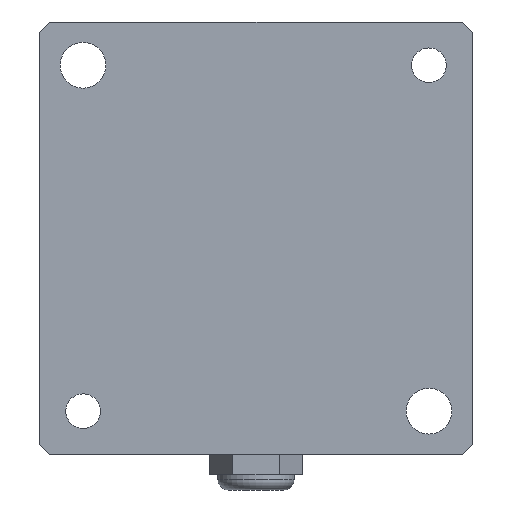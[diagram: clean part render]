
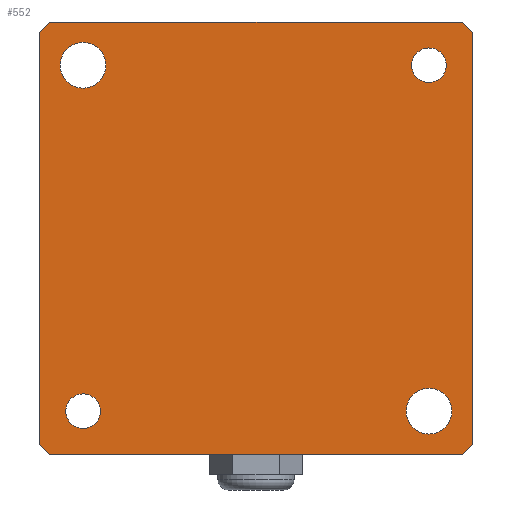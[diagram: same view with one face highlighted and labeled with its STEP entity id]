
A CAD part, front view. The second image highlights one B-rep face of the part: STEP entity #552.
In plain terms, the highlighted planar face has unit normal (0, -1, 0).
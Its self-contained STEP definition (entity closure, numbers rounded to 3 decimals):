
#11 = ORIENTED_EDGE ( 'NONE', *, *, #1189, .T. ) ;
#14 = VERTEX_POINT ( 'NONE', #559 ) ;
#21 = EDGE_CURVE ( 'NONE', #922, #55, #548, .T. ) ;
#38 = EDGE_CURVE ( 'NONE', #57, #204, #1308, .T. ) ;
#41 = DIRECTION ( 'NONE',  ( 0., 0., 1. ) ) ;
#55 = VERTEX_POINT ( 'NONE', #1165 ) ;
#57 = VERTEX_POINT ( 'NONE', #212 ) ;
#83 = CIRCLE ( 'NONE', #1417, 4.5 ) ;
#110 = CARTESIAN_POINT ( 'NONE',  ( -42.5, 0., -40.5 ) ) ;
#117 = ORIENTED_EDGE ( 'NONE', *, *, #898, .T. ) ;
#155 = CARTESIAN_POINT ( 'NONE',  ( -34., 0., 34. ) ) ;
#160 = CARTESIAN_POINT ( 'NONE',  ( -34., 0., 34. ) ) ;
#162 = CARTESIAN_POINT ( 'NONE',  ( -34., 0., -30.6 ) ) ;
#177 = VERTEX_POINT ( 'NONE', #265 ) ;
#197 = CARTESIAN_POINT ( 'NONE',  ( -42.5, 0., -40.5 ) ) ;
#204 = VERTEX_POINT ( 'NONE', #1191 ) ;
#212 = CARTESIAN_POINT ( 'NONE',  ( 42.5, 0., 40.5 ) ) ;
#234 = CARTESIAN_POINT ( 'NONE',  ( 42.5, 0., -42.5 ) ) ;
#240 = CARTESIAN_POINT ( 'NONE',  ( -42.5, 0., -42.5 ) ) ;
#265 = CARTESIAN_POINT ( 'NONE',  ( 34., 0., -29.5 ) ) ;
#280 = LINE ( 'NONE', #1714, #527 ) ;
#281 = CARTESIAN_POINT ( 'NONE',  ( -34., 0., -34. ) ) ;
#293 = DIRECTION ( 'NONE',  ( 0., 1., 0. ) ) ;
#305 = DIRECTION ( 'NONE',  ( 0., 0., 1. ) ) ;
#312 = DIRECTION ( 'NONE',  ( 0.707, 0., 0.707 ) ) ;
#318 = DIRECTION ( 'NONE',  ( 0., 0., 1. ) ) ;
#324 = AXIS2_PLACEMENT_3D ( 'NONE', #1456, #511, #1574 ) ;
#340 = FACE_BOUND ( 'NONE', #888, .T. ) ;
#349 = CARTESIAN_POINT ( 'NONE',  ( 0., 0., 0. ) ) ;
#375 = CIRCLE ( 'NONE', #676, 3.4 ) ;
#457 = EDGE_CURVE ( 'NONE', #791, #531, #544, .T. ) ;
#466 = VERTEX_POINT ( 'NONE', #843 ) ;
#471 = DIRECTION ( 'NONE',  ( 0., 1., 0. ) ) ;
#478 = PLANE ( 'NONE',  #1662 ) ;
#489 = EDGE_CURVE ( 'NONE', #177, #1317, #1323, .T. ) ;
#492 = CARTESIAN_POINT ( 'NONE',  ( -42.5, 0., 42.5 ) ) ;
#511 = DIRECTION ( 'NONE',  ( 0., 1., 0. ) ) ;
#523 = EDGE_CURVE ( 'NONE', #1188, #1555, #668, .T. ) ;
#526 = FACE_OUTER_BOUND ( 'NONE', #1062, .T. ) ;
#527 = VECTOR ( 'NONE', #627, 1000. ) ;
#531 = VERTEX_POINT ( 'NONE', #853 ) ;
#540 = ORIENTED_EDGE ( 'NONE', *, *, #1320, .T. ) ;
#544 = LINE ( 'NONE', #1507, #795 ) ;
#546 = ORIENTED_EDGE ( 'NONE', *, *, #21, .F. ) ;
#548 = LINE ( 'NONE', #492, #736 ) ;
#550 = CIRCLE ( 'NONE', #1704, 4.5 ) ;
#552 = ADVANCED_FACE ( 'NONE', ( #1276, #1101, #929, #340, #526 ), #478, .F. ) ;
#559 = CARTESIAN_POINT ( 'NONE',  ( -34., 0., -37.4 ) ) ;
#563 = LINE ( 'NONE', #240, #1547 ) ;
#566 = CARTESIAN_POINT ( 'NONE',  ( -40.5, 0., 42.5 ) ) ;
#570 = AXIS2_PLACEMENT_3D ( 'NONE', #1324, #790, #1192 ) ;
#571 = LINE ( 'NONE', #110, #803 ) ;
#574 = VERTEX_POINT ( 'NONE', #197 ) ;
#586 = CARTESIAN_POINT ( 'NONE',  ( -42.5, 0., 40.5 ) ) ;
#592 = DIRECTION ( 'NONE',  ( 0., 1., 0. ) ) ;
#602 = DIRECTION ( 'NONE',  ( 1., 0., 0. ) ) ;
#626 = VECTOR ( 'NONE', #312, 1000. ) ;
#627 = DIRECTION ( 'NONE',  ( -0.707, 0., 0.707 ) ) ;
#649 = EDGE_CURVE ( 'NONE', #574, #1076, #563, .T. ) ;
#655 = CIRCLE ( 'NONE', #1404, 3.4 ) ;
#668 = CIRCLE ( 'NONE', #1310, 3.4 ) ;
#676 = AXIS2_PLACEMENT_3D ( 'NONE', #1274, #1449, #1443 ) ;
#724 = EDGE_CURVE ( 'NONE', #14, #986, #1451, .T. ) ;
#736 = VECTOR ( 'NONE', #602, 1000. ) ;
#752 = CARTESIAN_POINT ( 'NONE',  ( -40.5, 0., 42.5 ) ) ;
#759 = ORIENTED_EDGE ( 'NONE', *, *, #38, .F. ) ;
#784 = ORIENTED_EDGE ( 'NONE', *, *, #1596, .T. ) ;
#790 = DIRECTION ( 'NONE',  ( 0., 1., 0. ) ) ;
#791 = VERTEX_POINT ( 'NONE', #862 ) ;
#795 = VECTOR ( 'NONE', #827, 1000. ) ;
#800 = ORIENTED_EDGE ( 'NONE', *, *, #457, .F. ) ;
#803 = VECTOR ( 'NONE', #1592, 1000. ) ;
#805 = LINE ( 'NONE', #752, #1072 ) ;
#819 = EDGE_CURVE ( 'NONE', #1317, #177, #1235, .T. ) ;
#827 = DIRECTION ( 'NONE',  ( -1., 0., 0. ) ) ;
#836 = EDGE_CURVE ( 'NONE', #57, #55, #280, .T. ) ;
#843 = CARTESIAN_POINT ( 'NONE',  ( -34., 0., 38.5 ) ) ;
#853 = CARTESIAN_POINT ( 'NONE',  ( -40.5, 0., -42.5 ) ) ;
#862 = CARTESIAN_POINT ( 'NONE',  ( 40.5, 0., -42.5 ) ) ;
#888 = EDGE_LOOP ( 'NONE', ( #1551, #1031 ) ) ;
#891 = DIRECTION ( 'NONE',  ( -0.707, 0., -0.707 ) ) ;
#897 = VECTOR ( 'NONE', #1679, 1000. ) ;
#898 = EDGE_CURVE ( 'NONE', #906, #466, #83, .T. ) ;
#906 = VERTEX_POINT ( 'NONE', #1114 ) ;
#915 = ORIENTED_EDGE ( 'NONE', *, *, #836, .T. ) ;
#922 = VERTEX_POINT ( 'NONE', #566 ) ;
#924 = EDGE_LOOP ( 'NONE', ( #540, #1639 ) ) ;
#929 = FACE_BOUND ( 'NONE', #924, .T. ) ;
#955 = EDGE_CURVE ( 'NONE', #791, #204, #1257, .T. ) ;
#986 = VERTEX_POINT ( 'NONE', #162 ) ;
#993 = CARTESIAN_POINT ( 'NONE',  ( 34., 0., -38.5 ) ) ;
#1031 = ORIENTED_EDGE ( 'NONE', *, *, #724, .T. ) ;
#1062 = EDGE_LOOP ( 'NONE', ( #1271, #1599, #800, #1540, #759, #915, #546, #11 ) ) ;
#1072 = VECTOR ( 'NONE', #891, 1000. ) ;
#1076 = VERTEX_POINT ( 'NONE', #586 ) ;
#1101 = FACE_BOUND ( 'NONE', #1621, .T. ) ;
#1114 = CARTESIAN_POINT ( 'NONE',  ( -34., 0., 29.5 ) ) ;
#1142 = DIRECTION ( 'NONE',  ( 0., 0., 1. ) ) ;
#1165 = CARTESIAN_POINT ( 'NONE',  ( 40.5, 0., 42.5 ) ) ;
#1188 = VERTEX_POINT ( 'NONE', #1402 ) ;
#1189 = EDGE_CURVE ( 'NONE', #922, #1076, #805, .T. ) ;
#1191 = CARTESIAN_POINT ( 'NONE',  ( 42.5, 0., -40.5 ) ) ;
#1192 = DIRECTION ( 'NONE',  ( 0., 0., 1. ) ) ;
#1199 = ORIENTED_EDGE ( 'NONE', *, *, #819, .T. ) ;
#1235 = CIRCLE ( 'NONE', #570, 4.5 ) ;
#1239 = EDGE_LOOP ( 'NONE', ( #1498, #1199 ) ) ;
#1257 = LINE ( 'NONE', #1495, #626 ) ;
#1271 = ORIENTED_EDGE ( 'NONE', *, *, #649, .F. ) ;
#1274 = CARTESIAN_POINT ( 'NONE',  ( 34., 0., 34. ) ) ;
#1276 = FACE_BOUND ( 'NONE', #1239, .T. ) ;
#1308 = LINE ( 'NONE', #234, #897 ) ;
#1310 = AXIS2_PLACEMENT_3D ( 'NONE', #1556, #471, #1142 ) ;
#1317 = VERTEX_POINT ( 'NONE', #993 ) ;
#1320 = EDGE_CURVE ( 'NONE', #1555, #1188, #375, .T. ) ;
#1323 = CIRCLE ( 'NONE', #1396, 4.5 ) ;
#1324 = CARTESIAN_POINT ( 'NONE',  ( 34., 0., -34. ) ) ;
#1396 = AXIS2_PLACEMENT_3D ( 'NONE', #1512, #1500, #41 ) ;
#1402 = CARTESIAN_POINT ( 'NONE',  ( 34., 0., 30.6 ) ) ;
#1404 = AXIS2_PLACEMENT_3D ( 'NONE', #281, #1469, #1727 ) ;
#1417 = AXIS2_PLACEMENT_3D ( 'NONE', #155, #1642, #318 ) ;
#1424 = EDGE_CURVE ( 'NONE', #574, #531, #571, .T. ) ;
#1443 = DIRECTION ( 'NONE',  ( 0., 0., 1. ) ) ;
#1449 = DIRECTION ( 'NONE',  ( 0., 1., 0. ) ) ;
#1451 = CIRCLE ( 'NONE', #324, 3.4 ) ;
#1452 = DIRECTION ( 'NONE',  ( 0., 0., 1. ) ) ;
#1456 = CARTESIAN_POINT ( 'NONE',  ( -34., 0., -34. ) ) ;
#1469 = DIRECTION ( 'NONE',  ( 0., 1., 0. ) ) ;
#1495 = CARTESIAN_POINT ( 'NONE',  ( 40.5, 0., -42.5 ) ) ;
#1498 = ORIENTED_EDGE ( 'NONE', *, *, #489, .T. ) ;
#1500 = DIRECTION ( 'NONE',  ( 0., 1., 0. ) ) ;
#1507 = CARTESIAN_POINT ( 'NONE',  ( -42.5, 0., -42.5 ) ) ;
#1512 = CARTESIAN_POINT ( 'NONE',  ( 34., 0., -34. ) ) ;
#1540 = ORIENTED_EDGE ( 'NONE', *, *, #955, .T. ) ;
#1546 = EDGE_CURVE ( 'NONE', #986, #14, #655, .T. ) ;
#1547 = VECTOR ( 'NONE', #1452, 1000. ) ;
#1551 = ORIENTED_EDGE ( 'NONE', *, *, #1546, .T. ) ;
#1555 = VERTEX_POINT ( 'NONE', #1597 ) ;
#1556 = CARTESIAN_POINT ( 'NONE',  ( 34., 0., 34. ) ) ;
#1574 = DIRECTION ( 'NONE',  ( 0., 0., 1. ) ) ;
#1592 = DIRECTION ( 'NONE',  ( 0.707, 0., -0.707 ) ) ;
#1596 = EDGE_CURVE ( 'NONE', #466, #906, #550, .T. ) ;
#1597 = CARTESIAN_POINT ( 'NONE',  ( 34., 0., 37.4 ) ) ;
#1599 = ORIENTED_EDGE ( 'NONE', *, *, #1424, .T. ) ;
#1621 = EDGE_LOOP ( 'NONE', ( #784, #117 ) ) ;
#1639 = ORIENTED_EDGE ( 'NONE', *, *, #523, .T. ) ;
#1642 = DIRECTION ( 'NONE',  ( 0., 1., 0. ) ) ;
#1662 = AXIS2_PLACEMENT_3D ( 'NONE', #349, #592, #1678 ) ;
#1678 = DIRECTION ( 'NONE',  ( 0., 0., 1. ) ) ;
#1679 = DIRECTION ( 'NONE',  ( 0., 0., -1. ) ) ;
#1704 = AXIS2_PLACEMENT_3D ( 'NONE', #160, #293, #305 ) ;
#1714 = CARTESIAN_POINT ( 'NONE',  ( 42.5, 0., 40.5 ) ) ;
#1727 = DIRECTION ( 'NONE',  ( 0., 0., 1. ) ) ;
